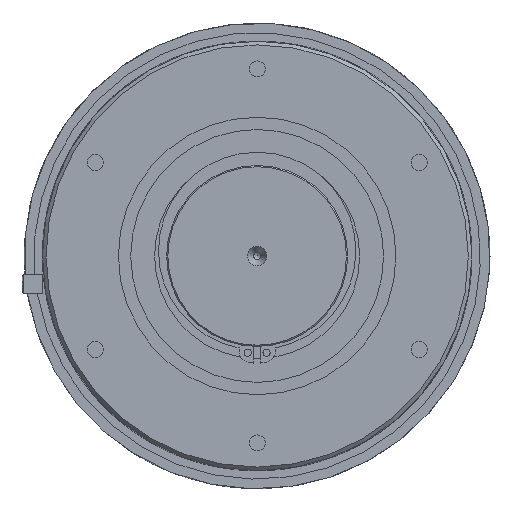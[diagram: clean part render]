
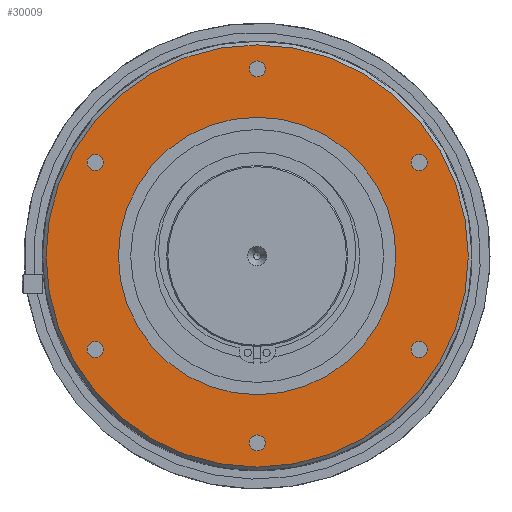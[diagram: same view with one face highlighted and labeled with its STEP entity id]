
A CAD part, left-side view. The second image highlights one B-rep face of the part: STEP entity #30009.
In plain terms, the highlighted planar face has unit normal (-1, 0, 0).
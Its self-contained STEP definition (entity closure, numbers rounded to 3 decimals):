
#6728=PLANE('',#34488);
#7184=FACE_BOUND('',#8579,.T.);
#7185=FACE_BOUND('',#8580,.T.);
#7186=FACE_BOUND('',#8581,.T.);
#7187=FACE_BOUND('',#8582,.T.);
#7188=FACE_BOUND('',#8583,.T.);
#7189=FACE_BOUND('',#8584,.T.);
#7190=FACE_BOUND('',#8585,.T.);
#7659=FACE_OUTER_BOUND('',#8578,.T.);
#8578=EDGE_LOOP('',(#26981));
#8579=EDGE_LOOP('',(#26982));
#8580=EDGE_LOOP('',(#26983));
#8581=EDGE_LOOP('',(#26984));
#8582=EDGE_LOOP('',(#26985));
#8583=EDGE_LOOP('',(#26986));
#8584=EDGE_LOOP('',(#26987));
#8585=EDGE_LOOP('',(#26988));
#9976=CIRCLE('',#33445,87.5);
#10238=CIRCLE('',#34489,57.5);
#10239=CIRCLE('',#34490,3.324);
#10240=CIRCLE('',#34491,3.324);
#10241=CIRCLE('',#34492,3.324);
#10242=CIRCLE('',#34493,3.324);
#10243=CIRCLE('',#34494,3.324);
#10244=CIRCLE('',#34495,3.324);
#13190=VERTEX_POINT('',#56601);
#14232=VERTEX_POINT('',#58687);
#14233=VERTEX_POINT('',#58689);
#14234=VERTEX_POINT('',#58691);
#14235=VERTEX_POINT('',#58693);
#14236=VERTEX_POINT('',#58695);
#14237=VERTEX_POINT('',#58697);
#14238=VERTEX_POINT('',#58699);
#18739=EDGE_CURVE('',#13190,#13190,#9976,.T.);
#19781=EDGE_CURVE('',#14232,#14232,#10238,.T.);
#19782=EDGE_CURVE('',#14233,#14233,#10239,.T.);
#19783=EDGE_CURVE('',#14234,#14234,#10240,.T.);
#19784=EDGE_CURVE('',#14235,#14235,#10241,.T.);
#19785=EDGE_CURVE('',#14236,#14236,#10242,.T.);
#19786=EDGE_CURVE('',#14237,#14237,#10243,.T.);
#19787=EDGE_CURVE('',#14238,#14238,#10244,.T.);
#26981=ORIENTED_EDGE('',*,*,#18739,.F.);
#26982=ORIENTED_EDGE('',*,*,#19781,.T.);
#26983=ORIENTED_EDGE('',*,*,#19782,.T.);
#26984=ORIENTED_EDGE('',*,*,#19783,.T.);
#26985=ORIENTED_EDGE('',*,*,#19784,.T.);
#26986=ORIENTED_EDGE('',*,*,#19785,.T.);
#26987=ORIENTED_EDGE('',*,*,#19786,.T.);
#26988=ORIENTED_EDGE('',*,*,#19787,.T.);
#30009=ADVANCED_FACE('',(#7659,#7184,#7185,#7186,#7187,#7188,#7189,#7190),
#6728,.T.);
#33445=AXIS2_PLACEMENT_3D('',#56602,#42741,#42742);
#34488=AXIS2_PLACEMENT_3D('',#58686,#44827,#44828);
#34489=AXIS2_PLACEMENT_3D('',#58688,#44829,#44830);
#34490=AXIS2_PLACEMENT_3D('',#58690,#44831,#44832);
#34491=AXIS2_PLACEMENT_3D('',#58692,#44833,#44834);
#34492=AXIS2_PLACEMENT_3D('',#58694,#44835,#44836);
#34493=AXIS2_PLACEMENT_3D('',#58696,#44837,#44838);
#34494=AXIS2_PLACEMENT_3D('',#58698,#44839,#44840);
#34495=AXIS2_PLACEMENT_3D('',#58700,#44841,#44842);
#42741=DIRECTION('center_axis',(1.,0.,0.));
#42742=DIRECTION('ref_axis',(0.,-1.,0.));
#44827=DIRECTION('center_axis',(-1.,0.,0.));
#44828=DIRECTION('ref_axis',(0.,0.,1.));
#44829=DIRECTION('center_axis',(1.,0.,0.));
#44830=DIRECTION('ref_axis',(0.,1.,0.));
#44831=DIRECTION('center_axis',(1.,0.,0.));
#44832=DIRECTION('ref_axis',(0.,0.,1.));
#44833=DIRECTION('center_axis',(1.,0.,0.));
#44834=DIRECTION('ref_axis',(0.,0.,1.));
#44835=DIRECTION('center_axis',(1.,0.,0.));
#44836=DIRECTION('ref_axis',(0.,0.,1.));
#44837=DIRECTION('center_axis',(1.,0.,0.));
#44838=DIRECTION('ref_axis',(0.,0.,1.));
#44839=DIRECTION('center_axis',(1.,0.,0.));
#44840=DIRECTION('ref_axis',(0.,0.,1.));
#44841=DIRECTION('center_axis',(1.,0.,0.));
#44842=DIRECTION('ref_axis',(0.,0.,1.));
#56601=CARTESIAN_POINT('',(-47.5,87.5,0.));
#56602=CARTESIAN_POINT('Origin',(-47.5,0.,0.));
#58686=CARTESIAN_POINT('Origin',(-47.5,73.25,0.));
#58687=CARTESIAN_POINT('',(-47.5,57.5,0.));
#58688=CARTESIAN_POINT('Origin',(-47.5,0.,0.));
#58689=CARTESIAN_POINT('',(-47.5,0.,-74.177));
#58690=CARTESIAN_POINT('Origin',(-47.5,0.,-77.5));
#58691=CARTESIAN_POINT('',(-47.5,-67.117,-35.427));
#58692=CARTESIAN_POINT('Origin',(-47.5,-67.117,-38.75));
#58693=CARTESIAN_POINT('',(-47.5,-67.117,42.074));
#58694=CARTESIAN_POINT('Origin',(-47.5,-67.117,38.75));
#58695=CARTESIAN_POINT('',(-47.5,0.,80.824));
#58696=CARTESIAN_POINT('Origin',(-47.5,0.,77.5));
#58697=CARTESIAN_POINT('',(-47.5,67.117,42.074));
#58698=CARTESIAN_POINT('Origin',(-47.5,67.117,38.75));
#58699=CARTESIAN_POINT('',(-47.5,67.117,-35.426));
#58700=CARTESIAN_POINT('Origin',(-47.5,67.117,-38.75));
